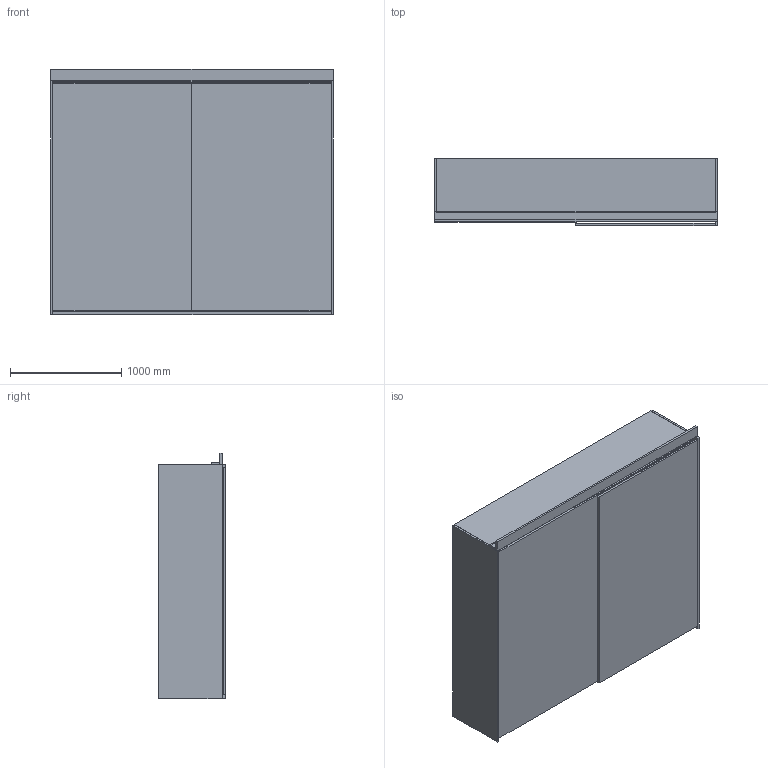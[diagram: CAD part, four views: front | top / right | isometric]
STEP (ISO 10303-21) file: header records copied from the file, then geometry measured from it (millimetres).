
FILE_DESCRIPTION(('STEP AP242'),'1');
FILE_NAME('OPO_51.047.51_volu_3d.stp','2026-02-23T17:25:12',(' '),(' '),'Spatial InterOp 3D',' ',' ');
FILE_SCHEMA(('AP242_MANAGED_MODEL_BASED_3D_ENGINEERING_MIM_LF {1 0 10303 442 1 1 4}'));
Length unit declared in the file: millimetre
Products named in the file (1): 1
Bounding box: 2538 x 599 x 2202 mm (x, y, z)
Volume: 264023359.9 mm3; surface area: 36769171.6 mm2
Topology: 14 solids, 14 shells, 414 faces, 1022 edges, 680 vertices
Faces by surface type: plane 290, cylinder 124
Entity records: 15630 total; most frequent: CARTESIAN_POINT 2130, DIRECTION 2126, ORIENTED_EDGE 2044, EDGE_CURVE 1022, LINE 774, VECTOR 774, VERTEX_POINT 680, AXIS2_PLACEMENT_3D 676
